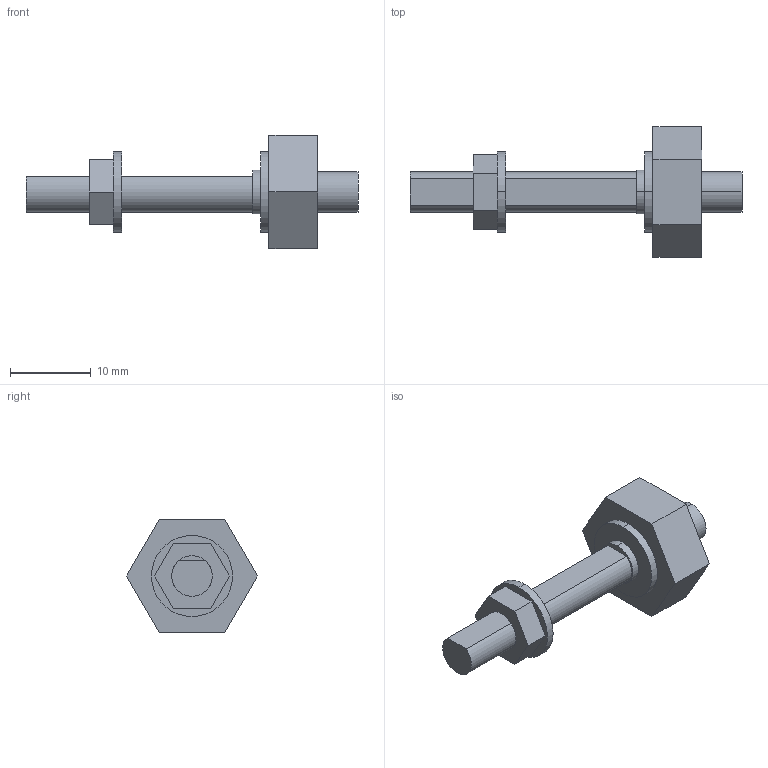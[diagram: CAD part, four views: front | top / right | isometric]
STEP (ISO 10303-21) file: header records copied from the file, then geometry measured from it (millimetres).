
FILE_DESCRIPTION (( 'STEP AP203' ), '1' );
FILE_NAME ('FV-BR1.STEP', '2005-09-08T02:42:48', ( '' ), ( '' ), 'SwSTEP 2.0', 'SolidWorks 2004073', '' );
FILE_SCHEMA (( 'CONFIG_CONTROL_DESIGN' ));
Length unit declared in the file: millimetre
Products named in the file (1): FV-BR1
Bounding box: 41 x 16.17 x 14 mm (x, y, z)
Volume: 1896.7 mm3; surface area: 1555.9 mm2
Topology: 3 solids, 3 shells, 36 faces, 78 edges, 52 vertices
Faces by surface type: plane 23, cylinder 13
Entity records: 1069 total; most frequent: DIRECTION 178, CARTESIAN_POINT 167, ORIENTED_EDGE 156, EDGE_CURVE 78, AXIS2_PLACEMENT_3D 63, VECTOR 52, LINE 52, VERTEX_POINT 52
